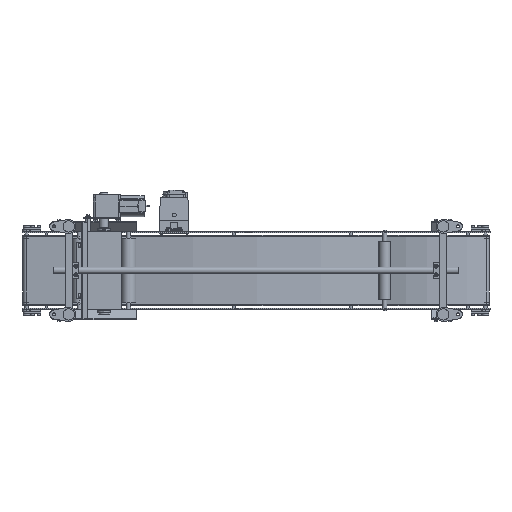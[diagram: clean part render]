
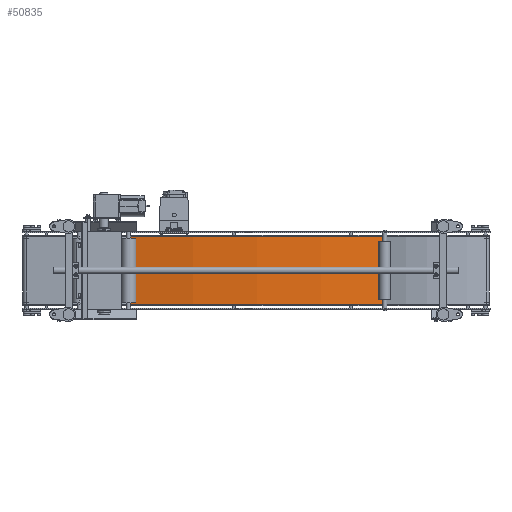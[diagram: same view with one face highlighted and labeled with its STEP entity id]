
A CAD part, front view. The second image highlights one B-rep face of the part: STEP entity #50835.
In plain terms, the highlighted cylindrical face has radius 2250 mm (diameter 4500 mm), a partial arc.
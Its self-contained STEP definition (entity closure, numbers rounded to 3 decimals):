
#1778 = LINE ( 'NONE', #51085, #18134 ) ;
#4494 = FACE_OUTER_BOUND ( 'NONE', #21491, .T. ) ;
#4543 = CARTESIAN_POINT ( 'NONE',  ( 462.06, -53.788, -143.5 ) ) ;
#4695 = AXIS2_PLACEMENT_3D ( 'NONE', #28317, #23779, #23972 ) ;
#5301 = ORIENTED_EDGE ( 'NONE', *, *, #42733, .T. ) ;
#7976 = DIRECTION ( 'NONE',  ( 0., 0., -1. ) ) ;
#9226 = CYLINDRICAL_SURFACE ( 'NONE', #34144, 2250. ) ;
#10678 = DIRECTION ( 'NONE',  ( 0., 0., -1. ) ) ;
#12951 = VERTEX_POINT ( 'NONE', #44682 ) ;
#13386 = AXIS2_PLACEMENT_3D ( 'NONE', #37995, #7976, #20571 ) ;
#14224 = EDGE_CURVE ( 'NONE', #12951, #31810, #54847, .T. ) ;
#18134 = VECTOR ( 'NONE', #46926, 1000. ) ;
#20289 = DIRECTION ( 'NONE',  ( 0., 0., -1. ) ) ;
#20571 = DIRECTION ( 'NONE',  ( 0.26, -0.966, 0. ) ) ;
#21491 = EDGE_LOOP ( 'NONE', ( #5301, #45308, #47283, #55543 ) ) ;
#22826 = CARTESIAN_POINT ( 'NONE',  ( 1543.242, -31.894, -143.5 ) ) ;
#23779 = DIRECTION ( 'NONE',  ( 0., 0., -1. ) ) ;
#23972 = DIRECTION ( 'NONE',  ( 0.26, -0.966, 0. ) ) ;
#27560 = CARTESIAN_POINT ( 'NONE',  ( 462.06, -53.788, 150. ) ) ;
#28317 = CARTESIAN_POINT ( 'NONE',  ( 958.431, 2140.777, -143.5 ) ) ;
#28929 = VERTEX_POINT ( 'NONE', #4543 ) ;
#29367 = VERTEX_POINT ( 'NONE', #22826 ) ;
#31810 = VERTEX_POINT ( 'NONE', #53068 ) ;
#34144 = AXIS2_PLACEMENT_3D ( 'NONE', #37382, #20289, #54142 ) ;
#37382 = CARTESIAN_POINT ( 'NONE',  ( 958.431, 2140.777, 150. ) ) ;
#37995 = CARTESIAN_POINT ( 'NONE',  ( 958.431, 2140.777, 143.5 ) ) ;
#42733 = EDGE_CURVE ( 'NONE', #31810, #28929, #44513, .T. ) ;
#43379 = EDGE_CURVE ( 'NONE', #29367, #28929, #50504, .T. ) ;
#44513 = LINE ( 'NONE', #27560, #54714 ) ;
#44682 = CARTESIAN_POINT ( 'NONE',  ( 1543.242, -31.894, 143.5 ) ) ;
#45308 = ORIENTED_EDGE ( 'NONE', *, *, #43379, .F. ) ;
#46926 = DIRECTION ( 'NONE',  ( 0., 0., -1. ) ) ;
#47283 = ORIENTED_EDGE ( 'NONE', *, *, #50916, .F. ) ;
#50504 = CIRCLE ( 'NONE', #4695, 2250. ) ;
#50835 = ADVANCED_FACE ( 'NONE', ( #4494 ), #9226, .T. ) ;
#50916 = EDGE_CURVE ( 'NONE', #12951, #29367, #1778, .T. ) ;
#51085 = CARTESIAN_POINT ( 'NONE',  ( 1543.242, -31.894, 150. ) ) ;
#53068 = CARTESIAN_POINT ( 'NONE',  ( 462.06, -53.788, 143.5 ) ) ;
#54142 = DIRECTION ( 'NONE',  ( -1., 0., 0. ) ) ;
#54714 = VECTOR ( 'NONE', #10678, 1000. ) ;
#54847 = CIRCLE ( 'NONE', #13386, 2250. ) ;
#55543 = ORIENTED_EDGE ( 'NONE', *, *, #14224, .T. ) ;
